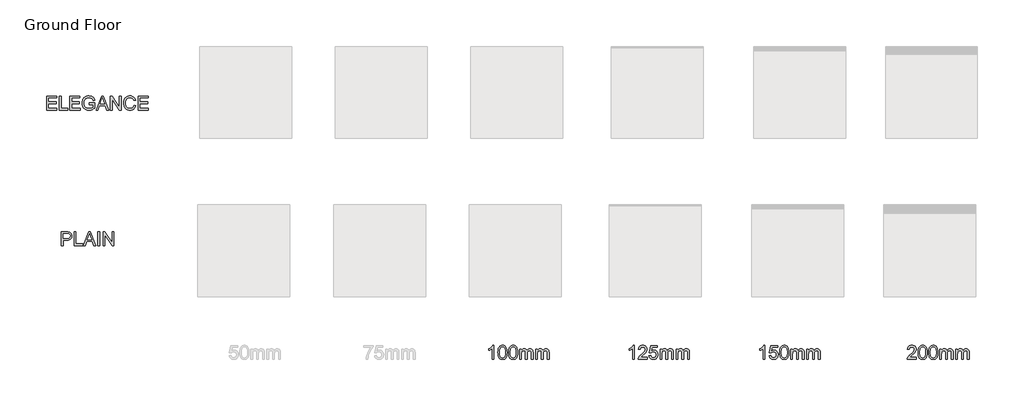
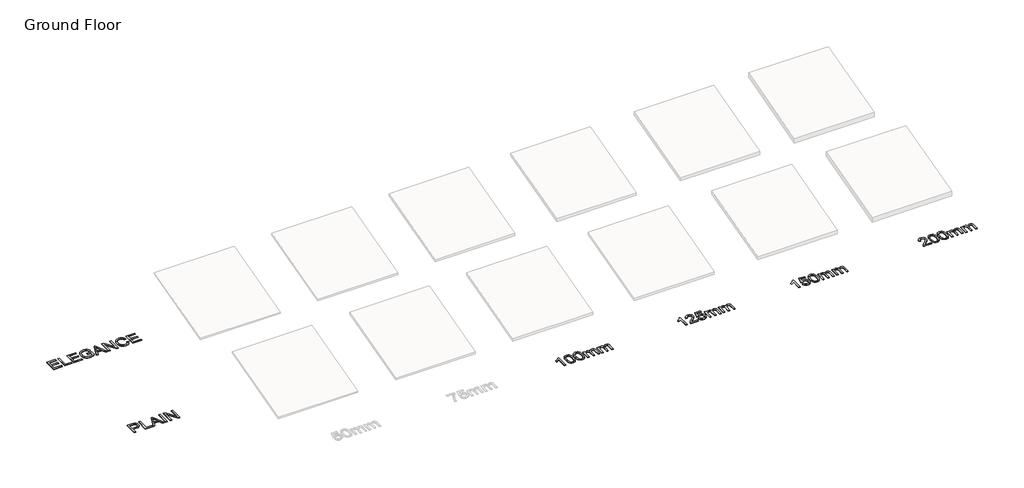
# One storey, part 2 of 2: 6 proxies.
"""IFC4 building model written with IfcOpenShell, lengths in millimetres."""

from ifc_helpers import new_model, si_unit, origin, origin_with_axes, place, context, project, spatial, polyline, outline, extrude, element, save

model = new_model("IFC4")

# Units and contexts
model_context = context("Model", 3, world=origin())
ifc_project = project(units=[si_unit("LENGTHUNIT", "METRE", prefix="MILLI")], contexts=[model_context])

# Site, building, storey
site = spatial("IfcSite", under=ifc_project)
building = spatial("IfcBuilding", under=site)
storey = spatial("IfcBuildingStorey", under=building, Name="Ground Floor", Elevation=0.0)

# Proxies
placement = place(None, origin())
element("IfcBuildingElementProxy", 1, Name="600mm Arial", ObjectType="600mm Arial", at=placement, inside=storey, context=model_context, shape_type="SweptSolid", body=[
    extrude(outline(polyline([(9514.4488498, -2485.58737), (9439.1066172, -2485.58737), (9439.1066172, -2015.8756386), (9407.6527066, -2041.3146785), (9367.7375101, -2066.7169303), (9325.8357509, -2088.9186087), (9288.422152, -2104.7559286), (9288.422152, -2033.5339743), (9347.5959709, -2001.3442998), (9398.8603269, -1963.0477841), (9439.2721641, -1922.3232472), (9465.8884265, -1882.8495091), (9514.4488498, -1882.8495091), (9514.4488498, -2485.58737)])), origin_with_axes(), (0.0, 0.0, 1.0), 20.0),
    extrude(outline(polyline([(10079.5155944, -2410.2451374), (10079.5155944, -2485.58737), (9683.9688732, -2485.58737), (9685.6243422, -2459.0630782), (9692.0622771, -2433.6424323), (9710.6403178, -2393.0466541), (9737.8267973, -2353.6648865), (9777.1533826, -2312.443709), (9832.1517409, -2266.3297009), (9913.4536618, -2194.1144652), (9962.2348144, -2140.8083641), (9976.4626505, -2119.02975), (9986.6253906, -2097.5454415), (9992.7230347, -2076.3554386), (9994.7555827, -2055.4597412), (9992.8379978, -2035.8010471), (9987.0852431, -2017.7334426), (9977.4973186, -2001.2569278), (9964.0742243, -1986.3715026), (9947.5609213, -1974.0428572), (9928.7023705, -1965.2366819), (9907.498572, -1959.9529768), (9883.9495258, -1958.1917417), (9859.1404837, -1959.9115901), (9836.9526009, -1965.071135), (9817.3858773, -1973.6703767), (9800.4403129, -1985.709315), (9786.73211, -2000.7832797), (9776.8774711, -2018.4876007), (9770.876396, -2038.822278), (9768.7288849, -2061.7873116), (9693.3866523, -2052.3695325), (9699.8659739, -2013.4752085), (9711.6519933, -1979.4921092), (9728.7447105, -1950.4202346), (9751.1441255, -1926.2595845), (9778.3352035, -1907.2676765), (9809.8029096, -1893.702028), (9845.547244, -1885.5626388), (9885.5682066, -1882.8495091), (9925.9478541, -1885.8661415), (9961.8853265, -1894.9160386), (9993.3806238, -1909.9992004), (10020.433746, -1931.1156269), (10042.1617763, -1956.7018196), (10057.681798, -1985.1942802), (10066.993811, -2016.5930085), (10070.0978153, -2050.8980045), (10066.7500892, -2086.9320459), (10056.7069107, -2122.340688), (10038.883028, -2158.3563353), (10012.1931893, -2196.2113926), (9969.6476366, -2241.4056957), (9904.2566119, -2299.4390805), (9817.5836138, -2371.9118335), (9783.5913175, -2410.2451374), (10079.5155944, -2410.2451374)])), origin_with_axes(), (0.0, 0.0, 1.0), 20.0),
    extrude(outline(polyline([(10154.857827, -2325.4851257), (10230.2000596, -2316.0673466), (10235.8286542, -2340.2877775), (10244.0324227, -2361.2984379), (10254.8113651, -2379.099328), (10268.1654815, -2393.6904476), (10284.0671808, -2405.0534027), (10302.4888717, -2413.1697993), (10323.4305543, -2418.0396372), (10346.8922285, -2419.6629165), (10375.5870241, -2417.4050407), (10400.8973054, -2410.6314135), (10422.8230723, -2399.3420348), (10441.3643249, -2383.5369045), (10456.1071958, -2363.9977721), (10466.6378179, -2341.5063866), (10472.9561912, -2316.0627481), (10475.0623156, -2287.6668566), (10473.0895484, -2260.8298651), (10467.1712468, -2236.9727177), (10457.3074108, -2216.0954144), (10443.4980404, -2198.1979554), (10425.6971504, -2183.8413605), (10403.8587555, -2173.5866499), (10377.9828556, -2167.4338235), (10348.0694509, -2165.3828814), (10311.5203747, -2168.6570312), (10281.9242682, -2178.4794804), (10258.28785, -2193.525854), (10239.6178387, -2212.4717768), (10164.2756061, -2203.0539977), (10230.2000596, -1892.2672882), (10522.151211, -1892.2672882), (10522.151211, -1967.6095208), (10291.121318, -1967.6095208), (10258.8948553, -2133.597877), (10285.4835265, -2114.5415897), (10312.7159912, -2100.9299559), (10340.5922493, -2092.7629756), (10369.112301, -2090.0406488), (10405.8039315, -2093.4159661), (10439.5065208, -2103.541918), (10470.2200689, -2120.4185045), (10497.9445757, -2144.0457257), (10520.8958137, -2172.9796446), (10537.2895551, -2205.7763245), (10547.1258, -2242.4357653), (10550.4045482, -2282.9579671), (10547.4522952, -2321.9902468), (10538.5955362, -2358.3001997), (10523.8342711, -2391.8878258), (10503.1685001, -2422.7531252), (10471.8617423, -2454.3633857), (10435.3310601, -2476.9421431), (10393.5764537, -2490.4893976), (10346.5979229, -2495.0051491), (10307.7173945, -2492.1034798), (10272.5984596, -2483.3984721), (10241.241118, -2468.890126), (10213.6453699, -2448.5784413), (10190.6849348, -2423.4750936), (10173.2335327, -2394.5917585), (10161.2911634, -2361.9284359), (10154.857827, -2325.4851257)])), origin_with_axes(), (0.0, 0.0, 1.0), 20.0),
    extrude(outline(polyline([(10635.1645599, -2485.58737), (10635.1645599, -2042.9517534), (10710.5067925, -2042.9517534), (10710.5067925, -2115.7923885), (10733.1683234, -2082.333521), (10762.3045775, -2056.1219288), (10796.9222732, -2039.180963), (10836.0281293, -2033.5339743), (10877.9298885, -2039.2913276), (10895.7629683, -2046.4880191), (10911.5175147, -2056.5633872), (10936.6070668, -2084.2097192), (10953.0146038, -2121.0898892), (10980.4769947, -2082.7841764), (11011.8021466, -2055.422953), (11046.9900594, -2039.006219), (11086.0407332, -2033.5339743), (11116.2024583, -2035.8102442), (11142.6761664, -2042.6390537), (11165.4618575, -2054.0204029), (11184.5595315, -2069.9542919), (11199.6564889, -2090.6246615), (11210.4400299, -2116.2154528), (11216.9101545, -2146.7266657), (11219.0668627, -2182.1583004), (11219.0668627, -2485.58737), (11143.7246301, -2485.58737), (11143.7246301, -2214.531916), (11141.9771906, -2176.9527702), (11136.7348722, -2151.6240948), (11126.9124229, -2134.2784587), (11111.4245909, -2120.6484308), (11091.5037808, -2111.8192629), (11068.3823974, -2108.8762069), (11047.0314462, -2110.7616022), (11027.5658901, -2116.4177879), (11009.9857292, -2125.844764), (10994.2909636, -2139.0425306), (10981.3829041, -2156.3973637), (10972.1628616, -2178.2955394), (10966.6308361, -2204.7370578), (10964.7868276, -2235.7219189), (10964.7868276, -2485.58737), (10889.444595, -2485.58737), (10889.444595, -2206.1442065), (10885.0851934, -2163.5434714), (10879.6359413, -2146.8232348), (10872.0069884, -2133.1564186), (10861.8948321, -2122.533826), (10848.9959696, -2114.9462599), (10833.3104011, -2110.3937202), (10814.8381264, -2108.8762069), (10785.812237, -2112.9229089), (10759.0672159, -2125.0630147), (10736.9942962, -2145.0022189), (10721.9847108, -2172.4462157), (10713.3762721, -2210.5220022), (10710.5067925, -2262.3565753), (10710.5067925, -2485.58737), (10635.1645599, -2485.58737)])), origin_with_axes(), (0.0, 0.0, 1.0), 20.0),
    extrude(outline(polyline([(11332.0802116, -2485.58737), (11332.0802116, -2042.9517534), (11407.4224442, -2042.9517534), (11407.4224442, -2115.7923885), (11430.0839751, -2082.333521), (11459.2202291, -2056.1219288), (11493.8379249, -2039.180963), (11532.943781, -2033.5339743), (11574.8455402, -2039.2913276), (11592.6786199, -2046.4880191), (11608.4331664, -2056.5633872), (11633.5227184, -2084.2097192), (11649.9302554, -2121.0898892), (11677.3926464, -2082.7841764), (11708.7177983, -2055.422953), (11743.9057111, -2039.006219), (11782.9563849, -2033.5339743), (11813.11811, -2035.8102442), (11839.591818, -2042.6390537), (11862.3775091, -2054.0204029), (11881.4751832, -2069.9542919), (11896.5721406, -2090.6246615), (11907.3556815, -2116.2154528), (11913.8258061, -2146.7266657), (11915.9825143, -2182.1583004), (11915.9825143, -2485.58737), (11840.6402817, -2485.58737), (11840.6402817, -2214.531916), (11838.8928422, -2176.9527702), (11833.6505238, -2151.6240948), (11823.8280745, -2134.2784587), (11808.3402425, -2120.6484308), (11788.4194325, -2111.8192629), (11765.2980491, -2108.8762069), (11743.9470978, -2110.7616022), (11724.4815417, -2116.4177879), (11706.9013809, -2125.844764), (11691.2066153, -2139.0425306), (11678.2985558, -2156.3973637), (11669.0785133, -2178.2955394), (11663.5464878, -2204.7370578), (11661.7024793, -2235.7219189), (11661.7024793, -2485.58737), (11586.3602467, -2485.58737), (11586.3602467, -2206.1442065), (11582.000845, -2163.5434714), (11576.551593, -2146.8232348), (11568.9226401, -2133.1564186), (11558.8104837, -2122.533826), (11545.9116213, -2114.9462599), (11530.2260527, -2110.3937202), (11511.753778, -2108.8762069), (11482.7278886, -2112.9229089), (11455.9828676, -2125.0630147), (11433.9099479, -2145.0022189), (11418.9003625, -2172.4462157), (11410.2919238, -2210.5220022), (11407.4224442, -2262.3565753), (11407.4224442, -2485.58737), (11332.0802116, -2485.58737)])), origin_with_axes(), (0.0, 0.0, 1.0), 20.0),
])
element("IfcBuildingElementProxy", 2, Name="600mm Arial", ObjectType="600mm Arial", at=placement, inside=storey, context=model_context, shape_type="SweptSolid", body=[
    extrude(outline(polyline([(15201.7887855, -2485.58737), (15126.4465529, -2485.58737), (15126.4465529, -2015.8756386), (15094.9926423, -2041.3146785), (15055.0774458, -2066.7169303), (15013.1756866, -2088.9186087), (14975.7620877, -2104.7559286), (14975.7620877, -2033.5339743), (15034.9359066, -2001.3442998), (15086.2002626, -1963.0477841), (15126.6120998, -1922.3232472), (15153.2283621, -1882.8495091), (15201.7887855, -1882.8495091), (15201.7887855, -2485.58737)])), origin_with_axes(), (0.0, 0.0, 1.0), 20.0),
    extrude(outline(polyline([(15380.726588, -2325.4851257), (15456.0688206, -2316.0673466), (15461.6974151, -2340.2877775), (15469.9011836, -2361.2984379), (15480.680126, -2379.099328), (15494.0342425, -2393.6904476), (15509.9359417, -2405.0534027), (15528.3576326, -2413.1697993), (15549.2993152, -2418.0396372), (15572.7609894, -2419.6629165), (15601.4557851, -2417.4050407), (15626.7660663, -2410.6314135), (15648.6918332, -2399.3420348), (15667.2330858, -2383.5369045), (15681.9759568, -2363.9977721), (15692.5065789, -2341.5063866), (15698.8249521, -2316.0627481), (15700.9310766, -2287.6668566), (15698.9583094, -2260.8298651), (15693.0400078, -2236.9727177), (15683.1761718, -2216.0954144), (15669.3668014, -2198.1979554), (15651.5659113, -2183.8413605), (15629.7275164, -2173.5866499), (15603.8516166, -2167.4338235), (15573.9382118, -2165.3828814), (15537.3891356, -2168.6570312), (15507.7930291, -2178.4794804), (15484.1566109, -2193.525854), (15465.4865996, -2212.4717768), (15390.144367, -2203.0539977), (15456.0688206, -1892.2672882), (15748.0199719, -1892.2672882), (15748.0199719, -1967.6095208), (15516.990079, -1967.6095208), (15484.7636162, -2133.597877), (15511.3522874, -2114.5415897), (15538.5847521, -2100.9299559), (15566.4610103, -2092.7629756), (15594.981062, -2090.0406488), (15631.6726924, -2093.4159661), (15665.3752817, -2103.541918), (15696.0888298, -2120.4185045), (15723.8133367, -2144.0457257), (15746.7645746, -2172.9796446), (15763.158316, -2205.7763245), (15772.9945609, -2242.4357653), (15776.2733092, -2282.9579671), (15773.3210562, -2321.9902468), (15764.4642971, -2358.3001997), (15749.7030321, -2391.8878258), (15729.037261, -2422.7531252), (15697.7305032, -2454.3633857), (15661.1998211, -2476.9421431), (15619.4452146, -2490.4893976), (15572.4666838, -2495.0051491), (15533.5861555, -2492.1034798), (15498.4672205, -2483.3984721), (15467.109879, -2468.890126), (15439.5141308, -2448.5784413), (15416.5536958, -2423.4750936), (15399.1022936, -2394.5917585), (15387.1599243, -2361.9284359), (15380.726588, -2325.4851257)])), origin_with_axes(), (0.0, 0.0, 1.0), 20.0),
    extrude(outline(polyline([(15842.1977627, -2189.0744819), (15847.7343867, -2092.5974287), (15854.6551668, -2051.6843523), (15864.3442588, -2015.6549094), (15876.7602762, -1984.2147944), (15891.8618321, -1957.0697016), (15909.6489265, -1934.2196312), (15930.1215596, -1915.6645831), (15953.348709, -1901.3079882), (15979.3993528, -1891.0532776), (16008.2734909, -1884.9004512), (16039.9711233, -1882.8495091), (16086.3978311, -1887.7055514), (16127.9684966, -1902.2736785), (16162.7333451, -1925.983673), (16188.7426022, -1958.2653181), (16208.3875007, -1998.8427022), (16224.0592737, -2047.4399138), (16234.3231814, -2109.1521184), (16237.7444839, -2189.0744819), (16232.2630422, -2284.9997121), (16225.41124, -2325.7748328), (16215.818717, -2361.7582904), (16203.4992687, -2393.212201), (16188.4666907, -2420.3986805), (16170.7209829, -2443.3177288), (16150.2621455, -2461.9693459), (16127.0074049, -2476.4225098), (16100.8739876, -2486.7461983), (16071.8618938, -2492.9404114), (16039.9711233, -2495.0051491), (15998.4740343, -2491.4182996), (15961.6858347, -2480.6577513), (15929.6065248, -2462.723504), (15902.2361043, -2437.6155578), (15875.9693299, -2392.2281167), (15857.2073481, -2335.675457), (15845.9501591, -2267.9575787), (15842.1977627, -2189.0744819)]), holes=[polyline([(15917.5399953, -2188.9273291), (15919.7472873, -2254.4241198), (15926.3691632, -2307.4405138), (15937.4056231, -2347.9765112), (15952.8566669, -2376.0321118), (15971.5450722, -2395.1205889), (15992.2936167, -2408.7552153), (16015.1023004, -2416.9359912), (16039.9711233, -2419.6629165), (16064.8399462, -2416.9267941), (16087.6486299, -2408.7184271), (16108.3971744, -2395.0378154), (16127.0855798, -2375.884959), (16142.5366236, -2347.7833731), (16153.5730834, -2307.2565728), (16160.1949593, -2254.3045582), (16162.4022513, -2188.9273291), (16160.2685357, -2125.1641823), (16153.867389, -2073.0812888), (16143.1988112, -2032.6786487), (16128.2628022, -2003.9562619), (16109.8870965, -1983.9342843), (16088.8994287, -1969.6328718), (16065.2997987, -1961.0520242), (16039.0882065, -1958.1917417), (16014.3481424, -1960.7117334), (15991.9257347, -1968.2717084), (15971.8209837, -1980.8716667), (15954.0338892, -1998.5116084), (15938.0678107, -2029.781578), (15926.6634688, -2071.9408546), (15919.8208637, -2124.9894383), (15917.5399953, -2188.9273291)])]), origin_with_axes(), (0.0, 0.0, 1.0), 20.0),
    extrude(outline(polyline([(16322.5044956, -2485.58737), (16322.5044956, -2042.9517534), (16397.8467282, -2042.9517534), (16397.8467282, -2115.7923885), (16420.5082591, -2082.333521), (16449.6445131, -2056.1219288), (16484.2622089, -2039.180963), (16523.368065, -2033.5339743), (16565.2698242, -2039.2913276), (16583.1029039, -2046.4880191), (16598.8574504, -2056.5633872), (16623.9470025, -2084.2097192), (16640.3545394, -2121.0898892), (16667.8169304, -2082.7841764), (16699.1420823, -2055.422953), (16734.3299951, -2039.006219), (16773.3806689, -2033.5339743), (16803.542394, -2035.8102442), (16830.0161021, -2042.6390537), (16852.8017931, -2054.0204029), (16871.8994672, -2069.9542919), (16886.9964246, -2090.6246615), (16897.7799656, -2116.2154528), (16904.2500902, -2146.7266657), (16906.4067984, -2182.1583004), (16906.4067984, -2485.58737), (16831.0645657, -2485.58737), (16831.0645657, -2214.531916), (16829.3171263, -2176.9527702), (16824.0748078, -2151.6240948), (16814.2523586, -2134.2784587), (16798.7645266, -2120.6484308), (16778.8437165, -2111.8192629), (16755.7223331, -2108.8762069), (16734.3713818, -2110.7616022), (16714.9058258, -2116.4177879), (16697.3256649, -2125.844764), (16681.6308993, -2139.0425306), (16668.7228398, -2156.3973637), (16659.5027973, -2178.2955394), (16653.9707718, -2204.7370578), (16652.1267633, -2235.7219189), (16652.1267633, -2485.58737), (16576.7845307, -2485.58737), (16576.7845307, -2206.1442065), (16572.425129, -2163.5434714), (16566.975877, -2146.8232348), (16559.3469241, -2133.1564186), (16549.2347678, -2122.533826), (16536.3359053, -2114.9462599), (16520.6503367, -2110.3937202), (16502.1780621, -2108.8762069), (16473.1521726, -2112.9229089), (16446.4071516, -2125.0630147), (16424.3342319, -2145.0022189), (16409.3246465, -2172.4462157), (16400.7162078, -2210.5220022), (16397.8467282, -2262.3565753), (16397.8467282, -2485.58737), (16322.5044956, -2485.58737)])), origin_with_axes(), (0.0, 0.0, 1.0), 20.0),
    extrude(outline(polyline([(17019.4201473, -2485.58737), (17019.4201473, -2042.9517534), (17094.7623799, -2042.9517534), (17094.7623799, -2115.7923885), (17117.4239108, -2082.333521), (17146.5601648, -2056.1219288), (17181.1778606, -2039.180963), (17220.2837166, -2033.5339743), (17262.1854759, -2039.2913276), (17280.0185556, -2046.4880191), (17295.7731021, -2056.5633872), (17320.8626541, -2084.2097192), (17337.2701911, -2121.0898892), (17364.732582, -2082.7841764), (17396.0577339, -2055.422953), (17431.2456468, -2039.006219), (17470.2963206, -2033.5339743), (17500.4580456, -2035.8102442), (17526.9317537, -2042.6390537), (17549.7174448, -2054.0204029), (17568.8151189, -2069.9542919), (17583.9120762, -2090.6246615), (17594.6956172, -2116.2154528), (17601.1657418, -2146.7266657), (17603.32245, -2182.1583004), (17603.32245, -2485.58737), (17527.9802174, -2485.58737), (17527.9802174, -2214.531916), (17526.2327779, -2176.9527702), (17520.9904595, -2151.6240948), (17511.1680102, -2134.2784587), (17495.6801782, -2120.6484308), (17475.7593682, -2111.8192629), (17452.6379848, -2108.8762069), (17431.2870335, -2110.7616022), (17411.8214774, -2116.4177879), (17394.2413166, -2125.844764), (17378.546551, -2139.0425306), (17365.6384915, -2156.3973637), (17356.418449, -2178.2955394), (17350.8864235, -2204.7370578), (17349.042415, -2235.7219189), (17349.042415, -2485.58737), (17273.7001823, -2485.58737), (17273.7001823, -2206.1442065), (17269.3407807, -2163.5434714), (17263.8915286, -2146.8232348), (17256.2625758, -2133.1564186), (17246.1504194, -2122.533826), (17233.251557, -2114.9462599), (17217.5659884, -2110.3937202), (17199.0937137, -2108.8762069), (17170.0678243, -2112.9229089), (17143.3228033, -2125.0630147), (17121.2498835, -2145.0022189), (17106.2402981, -2172.4462157), (17097.6318594, -2210.5220022), (17094.7623799, -2262.3565753), (17094.7623799, -2485.58737), (17019.4201473, -2485.58737)])), origin_with_axes(), (0.0, 0.0, 1.0), 20.0),
])
element("IfcBuildingElementProxy", 3, Name="600mm Arial", ObjectType="600mm Arial", at=placement, inside=storey, context=model_context, shape_type="SweptSolid", body=[
    extrude(outline(polyline([(-15403.839663, 2451.9959966), (-15403.839663, 3054.7338575), (-15180.4617155, 3054.7338575), (-15128.4432014, 3053.2991177), (-15090.4042031, 3048.9948984), (-15050.2498833, 3038.2711382), (-15017.1956861, 3020.8151376), (-14990.5794237, 2995.8359501), (-14969.7389087, 2962.5426295), (-14956.2744277, 2923.2712265), (-14951.7862673, 2880.3577918), (-14954.8166953, 2843.3580601), (-14963.9079791, 2809.3197785), (-14979.0601187, 2778.242947), (-15000.2731143, 2750.1275655), (-15029.3955727, 2726.8222411), (-15068.2761011, 2710.1755808), (-15116.9146994, 2700.1875847), (-15175.3113676, 2696.8582526), (-15328.4974304, 2696.8582526), (-15328.4974304, 2451.9959966), (-15403.839663, 2451.9959966)]), holes=[polyline([(-15328.4974304, 2772.2004852), (-15170.8967836, 2772.2004852), (-15134.6604071, 2773.9295306), (-15104.0894133, 2779.1166667), (-15079.1838023, 2787.7618936), (-15059.9435739, 2799.8652113), (-15045.586979, 2815.1047229), (-15035.3322684, 2833.1585318), (-15029.1794421, 2854.026638), (-15027.1284999, 2877.7090414), (-15031.9661482, 2911.554185), (-15046.4790929, 2940.1018278), (-15068.8647123, 2961.5861363), (-15097.3203846, 2974.241277), (-15126.3830622, 2978.1040379), (-15172.6626172, 2979.3916249), (-15328.4974304, 2979.3916249), (-15328.4974304, 2772.2004852)])]), origin_with_axes(), (0.0, 0.0, 1.0), 20.0),
    extrude(outline(polyline([(-14848.1906975, 2451.9959966), (-14848.1906975, 3054.7338575), (-14772.8484649, 3054.7338575), (-14772.8484649, 2527.3382292), (-14471.4795344, 2527.3382292), (-14471.4795344, 2451.9959966), (-14848.1906975, 2451.9959966)])), origin_with_axes(), (0.0, 0.0, 1.0), 20.0),
    extrude(outline(polyline([(-14456.9114074, 2451.9959966), (-14216.3165826, 3054.7338575), (-14152.1579626, 3054.7338575), (-13911.5631378, 2451.9959966), (-13991.1728015, 2451.9959966), (-14060.1874638, 2640.3515782), (-14308.4342342, 2640.3515782), (-14377.3017437, 2451.9959966), (-14456.9114074, 2451.9959966)]), holes=[polyline([(-14280.7695081, 2715.6938108), (-14087.705037, 2715.6938108), (-14142.0044195, 2863.8766784), (-14184.2372726, 2979.3916249), (-14221.7612361, 2876.8261247), (-14280.7695081, 2715.6938108)])]), origin_with_axes(), (0.0, 0.0, 1.0), 20.0),
    extrude(outline(polyline([(-13821.6527781, 2451.9959966), (-13821.6527781, 3054.7338575), (-13746.3105455, 3054.7338575), (-13746.3105455, 2451.9959966), (-13821.6527781, 2451.9959966)])), origin_with_axes(), (0.0, 0.0, 1.0), 20.0),
    extrude(outline(polyline([(-13595.6260803, 2451.9959966), (-13595.6260803, 3054.7338575), (-13514.986347, 3054.7338575), (-13200.0793591, 2577.2230278), (-13200.0793591, 3054.7338575), (-13124.7371265, 3054.7338575), (-13124.7371265, 2451.9959966), (-13205.3768598, 2451.9959966), (-13520.2838477, 2929.6539792), (-13520.2838477, 2451.9959966), (-13595.6260803, 2451.9959966)])), origin_with_axes(), (0.0, 0.0, 1.0), 20.0),
])
element("IfcBuildingElementProxy", 4, Name="600mm Arial", ObjectType="600mm Arial", at=placement, inside=storey, context=model_context, shape_type="SweptSolid", body=[
    extrude(outline(polyline([(-16053.6664193, 8356.7959966), (-16053.6664193, 8959.5338575), (-15620.4485818, 8959.5338575), (-15620.4485818, 8884.1916249), (-15978.3241867, 8884.1916249), (-15978.3241867, 8705.2538225), (-15639.2841399, 8705.2538225), (-15639.2841399, 8629.9115898), (-15978.3241867, 8629.9115898), (-15978.3241867, 8432.1382292), (-15611.0308027, 8432.1382292), (-15611.0308027, 8356.7959966), (-16053.6664193, 8356.7959966)])), origin_with_axes(), (0.0, 0.0, 1.0), 20.0),
    extrude(outline(polyline([(-15498.0174538, 8356.7959966), (-15498.0174538, 8959.5338575), (-15422.6752211, 8959.5338575), (-15422.6752211, 8432.1382292), (-15121.3062907, 8432.1382292), (-15121.3062907, 8356.7959966), (-15498.0174538, 8356.7959966)])), origin_with_axes(), (0.0, 0.0, 1.0), 20.0),
    extrude(outline(polyline([(-15036.546279, 8356.7959966), (-15036.546279, 8959.5338575), (-14603.3284415, 8959.5338575), (-14603.3284415, 8884.1916249), (-14961.2040464, 8884.1916249), (-14961.2040464, 8705.2538225), (-14622.1639996, 8705.2538225), (-14622.1639996, 8629.9115898), (-14961.2040464, 8629.9115898), (-14961.2040464, 8432.1382292), (-14593.9106624, 8432.1382292), (-14593.9106624, 8356.7959966), (-15036.546279, 8356.7959966)])), origin_with_axes(), (0.0, 0.0, 1.0), 20.0),
    extrude(outline(polyline([(-14198.3639412, 8592.2404735), (-14198.3639412, 8667.5827061), (-13953.5016852, 8667.5827061), (-13953.5016852, 8442.2917723), (-14013.0065979, 8400.9050478), (-14074.3877088, 8371.2169708), (-14137.4978651, 8353.3379059), (-14202.1899139, 8347.3782175), (-14245.4666322, 8349.7464579), (-14286.7108023, 8356.8511789), (-14325.9224245, 8368.6923806), (-14363.1014986, 8385.270063), (-14397.0478097, 8406.3359058), (-14426.5611428, 8431.6415885), (-14451.6414978, 8461.1871113), (-14472.2888748, 8494.972474), (-14488.4159018, 8531.9170234), (-14499.9352067, 8570.940106), (-14506.8467897, 8612.0417219), (-14509.1506507, 8655.2218711), (-14506.8559868, 8698.4066188), (-14499.9719949, 8740.1106415), (-14488.4986752, 8780.3339391), (-14472.4360276, 8819.0765118), (-14452.0691606, 8854.6369051), (-14427.6831829, 8885.313665), (-14399.2780943, 8911.1067914), (-14366.853895, 8932.0162843), (-14331.1141592, 8948.1755009), (-14292.7624612, 8959.7177985), (-14251.798801, 8966.6431771), (-14208.2231787, 8968.9516366), (-14146.1614861, 8963.5989536), (-14090.3537874, 8947.5409045), (-14065.4343808, 8935.7870747), (-14043.3568625, 8921.9363176), (-14024.1212327, 8905.9886331), (-14007.7274913, 8887.9440213), (-13981.3687463, 8843.9269405), (-13962.1837003, 8788.2480006), (-14031.639821, 8768.6766784), (-14047.1460471, 8808.3895398), (-14065.9999993, 8838.3535283), (-14090.9423986, 8860.9414828), (-14124.7139658, 8878.5262422), (-14164.9786501, 8889.8386135), (-14209.4004011, 8893.609404), (-14261.4005211, 8889.5443079), (-14305.8590602, 8877.3490198), (-14342.6104715, 8858.5502498), (-14371.4892081, 8834.6747084), (-14393.6540983, 8806.9548), (-14410.2639704, 8776.6229295), (-14427.9223062, 8719.7483731), (-14433.8084181, 8658.3120799), (-14432.037986, 8620.6915473), (-14426.7266897, 8586.2623911), (-14417.8745292, 8555.0246112), (-14405.4815045, 8526.9782076), (-14389.7085639, 8502.2289464), (-14370.7166559, 8480.8825936), (-14348.5057805, 8462.9391493), (-14323.0759376, 8448.3986134), (-14295.6181451, 8437.164417), (-14267.3234212, 8429.139991), (-14238.1917657, 8424.3253354), (-14208.2231787, 8422.7204502), (-14156.0391177, 8427.5580984), (-14105.1426436, 8442.0710431), (-14060.9416219, 8462.0654295), (-14028.8439178, 8483.347403), (-14028.8439178, 8592.2404735), (-14198.3639412, 8592.2404735)])), origin_with_axes(), (0.0, 0.0, 1.0), 20.0),
    extrude(outline(polyline([(-13901.2624419, 8356.7959966), (-13660.667617, 8959.5338575), (-13596.5089971, 8959.5338575), (-13355.9141722, 8356.7959966), (-13435.523836, 8356.7959966), (-13504.5384983, 8545.1515782), (-13752.7852686, 8545.1515782), (-13821.6527781, 8356.7959966), (-13901.2624419, 8356.7959966)]), holes=[polyline([(-13725.1205426, 8620.4938108), (-13532.0560715, 8620.4938108), (-13586.355454, 8768.6766784), (-13628.5883071, 8884.1916249), (-13666.1122706, 8781.6261247), (-13725.1205426, 8620.4938108)])]), origin_with_axes(), (0.0, 0.0, 1.0), 20.0),
    extrude(outline(polyline([(-13275.4215917, 8356.7959966), (-13275.4215917, 8959.5338575), (-13194.7818584, 8959.5338575), (-12879.8748705, 8482.0230278), (-12879.8748705, 8959.5338575), (-12804.5326379, 8959.5338575), (-12804.5326379, 8356.7959966), (-12885.1723712, 8356.7959966), (-13200.0793591, 8834.4539792), (-13200.0793591, 8356.7959966), (-13275.4215917, 8356.7959966)])), origin_with_axes(), (0.0, 0.0, 1.0), 20.0),
    extrude(outline(polyline([(-12248.8836724, 8571.0504706), (-12173.5414397, 8551.6263013), (-12188.4498576, 8504.7719307), (-12208.3062883, 8463.8312631), (-12233.1107318, 8428.8042987), (-12262.8631882, 8399.6910373), (-12296.8922727, 8376.8041786), (-12334.5266008, 8360.4564225), (-12375.7661725, 8350.6477688), (-12420.6109877, 8347.3782175), (-12466.5548504, 8349.852224), (-12508.0013557, 8357.2742432), (-12544.9505036, 8369.6442753), (-12577.4022941, 8386.9623202), (-12605.8027841, 8408.9708606), (-12630.5980306, 8435.412379), (-12651.7880335, 8466.2868754), (-12669.3727928, 8501.5943499), (-12683.1821632, 8539.8080922), (-12693.0459992, 8579.4013919), (-12698.9643008, 8620.3742491), (-12700.937068, 8662.7266638), (-12698.7067834, 8708.1692873), (-12692.0159296, 8750.6136725), (-12680.8645067, 8790.0598194), (-12665.2525145, 8826.5077281), (-12645.529441, 8859.3549917), (-12622.0447742, 8887.9992036), (-12594.7985139, 8912.4403636), (-12563.7906602, 8932.6784719), (-12530.0742754, 8948.5479814), (-12494.7024215, 8959.8833454), (-12457.6750987, 8966.6845638), (-12418.9923069, 8968.9516366), (-12375.8995297, 8966.0177777), (-12336.3844049, 8957.216201), (-12300.4469325, 8942.5469064), (-12268.0871125, 8922.009894), (-12239.8383738, 8896.1477898), (-12216.2341453, 8865.5032196), (-12197.274427, 8830.0761834), (-12182.9592188, 8789.8666813), (-12258.3014514, 8771.91404), (-12270.1656458, 8801.5423362), (-12284.4210731, 8826.857216), (-12301.0677334, 8847.8586794), (-12320.1056266, 8864.5467264), (-12341.6451174, 8877.2616478), (-12365.7965704, 8886.3437346), (-12392.5599856, 8891.7929866), (-12421.9353629, 8893.609404), (-12455.7345212, 8891.5952501), (-12486.6458058, 8885.5527883), (-12514.6692168, 8875.4820187), (-12539.8047541, 8861.3829412), (-12561.7351196, 8843.8901523), (-12580.1430149, 8823.6382485), (-12595.0284401, 8800.6272297), (-12606.3913953, 8774.8570959), (-12620.7939754, 8719.7115849), (-12625.5948354, 8662.8738166), (-12619.9110586, 8593.2705431), (-12612.8063376, 8562.0005735), (-12602.8597281, 8533.0850487), (-12589.9102819, 8507.0987843), (-12573.7970505, 8484.6165958), (-12554.520034, 8465.6384834), (-12532.0792322, 8450.164447), (-12507.5644958, 8438.1576984), (-12482.065675, 8429.5814494), (-12455.5827699, 8424.4357), (-12428.1157804, 8422.7204502), (-12395.3604873, 8425.0565008), (-12365.2263533, 8432.0646528), (-12337.7133786, 8443.7449062), (-12312.8215631, 8460.0972609), (-12291.139518, 8481.0481405), (-12273.2558545, 8506.5239687), (-12259.1705726, 8536.5247454), (-12248.8836724, 8571.0504706)])), origin_with_axes(), (0.0, 0.0, 1.0), 20.0),
    extrude(outline(polyline([(-12069.9458699, 8356.7959966), (-12069.9458699, 8959.5338575), (-11636.7280324, 8959.5338575), (-11636.7280324, 8884.1916249), (-11994.6036373, 8884.1916249), (-11994.6036373, 8705.2538225), (-11655.5635905, 8705.2538225), (-11655.5635905, 8629.9115898), (-11994.6036373, 8629.9115898), (-11994.6036373, 8432.1382292), (-11627.3102533, 8432.1382292), (-11627.3102533, 8356.7959966), (-12069.9458699, 8356.7959966)])), origin_with_axes(), (0.0, 0.0, 1.0), 20.0),
])
element("IfcBuildingElementProxy", 5, Name="600mm Arial", ObjectType="600mm Arial", at=placement, inside=storey, context=model_context, shape_type="SweptSolid", body=[
    extrude(outline(polyline([(3406.1216398, -2485.58737), (3330.7794071, -2485.58737), (3330.7794071, -2015.8756386), (3299.3254966, -2041.3146785), (3259.4103001, -2066.7169303), (3217.5085408, -2088.9186087), (3180.0949419, -2104.7559286), (3180.0949419, -2033.5339743), (3239.2687608, -2001.3442998), (3290.5331169, -1963.0477841), (3330.944954, -1922.3232472), (3357.5612164, -1882.8495091), (3406.1216398, -1882.8495091), (3406.1216398, -2485.58737)])), origin_with_axes(), (0.0, 0.0, 1.0), 20.0),
    extrude(outline(polyline([(3585.0594422, -2189.0744819), (3590.5960662, -2092.5974287), (3597.5168463, -2051.6843523), (3607.2059383, -2015.6549094), (3619.6219557, -1984.2147944), (3634.7235116, -1957.0697016), (3652.510606, -1934.2196312), (3672.9832391, -1915.6645831), (3696.2103885, -1901.3079882), (3722.2610323, -1891.0532776), (3751.1351704, -1884.9004512), (3782.8328028, -1882.8495091), (3829.2595106, -1887.7055514), (3870.8301761, -1902.2736785), (3905.5950246, -1925.983673), (3931.6042817, -1958.2653181), (3951.2491802, -1998.8427022), (3966.9209532, -2047.4399138), (3977.1848609, -2109.1521184), (3980.6061634, -2189.0744819), (3975.1247217, -2284.9997121), (3968.2729195, -2325.7748328), (3958.6803965, -2361.7582904), (3946.3609482, -2393.212201), (3931.3283702, -2420.3986805), (3913.5826624, -2443.3177288), (3893.123825, -2461.9693459), (3869.8690843, -2476.4225098), (3843.7356671, -2486.7461983), (3814.7235733, -2492.9404114), (3782.8328028, -2495.0051491), (3741.3357138, -2491.4182996), (3704.5475142, -2480.6577513), (3672.4682043, -2462.723504), (3645.0977838, -2437.6155578), (3618.8310094, -2392.2281167), (3600.0690276, -2335.675457), (3588.8118386, -2267.9575787), (3585.0594422, -2189.0744819)]), holes=[polyline([(3660.4016748, -2188.9273291), (3662.6089668, -2254.4241198), (3669.2308427, -2307.4405138), (3680.2673026, -2347.9765112), (3695.7183464, -2376.0321118), (3714.4067517, -2395.1205889), (3735.1552962, -2408.7552153), (3757.9639799, -2416.9359912), (3782.8328028, -2419.6629165), (3807.7016257, -2416.9267941), (3830.5103094, -2408.7184271), (3851.2588539, -2395.0378154), (3869.9472593, -2375.884959), (3885.3983031, -2347.7833731), (3896.4347629, -2307.2565728), (3903.0566388, -2254.3045582), (3905.2639308, -2188.9273291), (3903.1302152, -2125.1641823), (3896.7290685, -2073.0812888), (3886.0604907, -2032.6786487), (3871.1244817, -2003.9562619), (3852.748776, -1983.9342843), (3831.7611082, -1969.6328718), (3808.1614782, -1961.0520242), (3781.949886, -1958.1917417), (3757.2098218, -1960.7117334), (3734.7874142, -1968.2717084), (3714.6826632, -1980.8716667), (3696.8955687, -1998.5116084), (3680.9294901, -2029.781578), (3669.5251483, -2071.9408546), (3662.6825432, -2124.9894383), (3660.4016748, -2188.9273291)])]), origin_with_axes(), (0.0, 0.0, 1.0), 20.0),
    extrude(outline(polyline([(4046.530617, -2189.0744819), (4052.067241, -2092.5974287), (4058.988021, -2051.6843523), (4068.6771131, -2015.6549094), (4081.0931304, -1984.2147944), (4096.1946863, -1957.0697016), (4113.9817808, -1934.2196312), (4134.4544138, -1915.6645831), (4157.6815633, -1901.3079882), (4183.7322071, -1891.0532776), (4212.6063452, -1884.9004512), (4244.3039776, -1882.8495091), (4290.7306854, -1887.7055514), (4332.3013508, -1902.2736785), (4367.0661994, -1925.983673), (4393.0754564, -1958.2653181), (4412.720355, -1998.8427022), (4428.392128, -2047.4399138), (4438.6560356, -2109.1521184), (4442.0773382, -2189.0744819), (4436.5958964, -2284.9997121), (4429.7440943, -2325.7748328), (4420.1515713, -2361.7582904), (4407.8321229, -2393.212201), (4392.7995449, -2420.3986805), (4375.0538372, -2443.3177288), (4354.5949997, -2461.9693459), (4331.3402591, -2476.4225098), (4305.2068419, -2486.7461983), (4276.194748, -2492.9404114), (4244.3039776, -2495.0051491), (4202.8068885, -2491.4182996), (4166.018689, -2480.6577513), (4133.939379, -2462.723504), (4106.5689586, -2437.6155578), (4080.3021841, -2392.2281167), (4061.5402024, -2335.675457), (4050.2830133, -2267.9575787), (4046.530617, -2189.0744819)]), holes=[polyline([(4121.8728496, -2188.9273291), (4124.0801415, -2254.4241198), (4130.7020175, -2307.4405138), (4141.7384773, -2347.9765112), (4157.1895211, -2376.0321118), (4175.8779265, -2395.1205889), (4196.626471, -2408.7552153), (4219.4351547, -2416.9359912), (4244.3039776, -2419.6629165), (4269.1728004, -2416.9267941), (4291.9814841, -2408.7184271), (4312.7300287, -2395.0378154), (4331.418434, -2375.884959), (4346.8694778, -2347.7833731), (4357.9059377, -2307.2565728), (4364.5278136, -2254.3045582), (4366.7351056, -2188.9273291), (4364.60139, -2125.1641823), (4358.2002433, -2073.0812888), (4347.5316654, -2032.6786487), (4332.5956564, -2003.9562619), (4314.2199507, -1983.9342843), (4293.2322829, -1969.6328718), (4269.6326529, -1961.0520242), (4243.4210608, -1958.1917417), (4218.6809966, -1960.7117334), (4196.258589, -1968.2717084), (4176.153838, -1980.8716667), (4158.3667435, -1998.5116084), (4142.4006649, -2029.781578), (4130.996323, -2071.9408546), (4124.1537179, -2124.9894383), (4121.8728496, -2188.9273291)])]), origin_with_axes(), (0.0, 0.0, 1.0), 20.0),
    extrude(outline(polyline([(4526.8373499, -2485.58737), (4526.8373499, -2042.9517534), (4602.1795825, -2042.9517534), (4602.1795825, -2115.7923885), (4624.8411134, -2082.333521), (4653.9773674, -2056.1219288), (4688.5950631, -2039.180963), (4727.7009192, -2033.5339743), (4769.6026785, -2039.2913276), (4787.4357582, -2046.4880191), (4803.1903046, -2056.5633872), (4828.2798567, -2084.2097192), (4844.6873937, -2121.0898892), (4872.1497846, -2082.7841764), (4903.4749365, -2055.422953), (4938.6628494, -2039.006219), (4977.7135231, -2033.5339743), (5007.8752482, -2035.8102442), (5034.3489563, -2042.6390537), (5057.1346474, -2054.0204029), (5076.2323215, -2069.9542919), (5091.3292788, -2090.6246615), (5102.1128198, -2116.2154528), (5108.5829444, -2146.7266657), (5110.7396526, -2182.1583004), (5110.7396526, -2485.58737), (5035.39742, -2485.58737), (5035.39742, -2214.531916), (5033.6499805, -2176.9527702), (5028.4076621, -2151.6240948), (5018.5852128, -2134.2784587), (5003.0973808, -2120.6484308), (4983.1765708, -2111.8192629), (4960.0551874, -2108.8762069), (4938.7042361, -2110.7616022), (4919.23868, -2116.4177879), (4901.6585192, -2125.844764), (4885.9637536, -2139.0425306), (4873.055694, -2156.3973637), (4863.8356515, -2178.2955394), (4858.303626, -2204.7370578), (4856.4596175, -2235.7219189), (4856.4596175, -2485.58737), (4781.1173849, -2485.58737), (4781.1173849, -2206.1442065), (4776.7579833, -2163.5434714), (4771.3087312, -2146.8232348), (4763.6797784, -2133.1564186), (4753.567622, -2122.533826), (4740.6687596, -2114.9462599), (4724.983191, -2110.3937202), (4706.5109163, -2108.8762069), (4677.4850269, -2112.9229089), (4650.7400058, -2125.0630147), (4628.6670861, -2145.0022189), (4613.6575007, -2172.4462157), (4605.049062, -2210.5220022), (4602.1795825, -2262.3565753), (4602.1795825, -2485.58737), (4526.8373499, -2485.58737)])), origin_with_axes(), (0.0, 0.0, 1.0), 20.0),
    extrude(outline(polyline([(5223.7530015, -2485.58737), (5223.7530015, -2042.9517534), (5299.0952341, -2042.9517534), (5299.0952341, -2115.7923885), (5321.756765, -2082.333521), (5350.8930191, -2056.1219288), (5385.5107148, -2039.180963), (5424.6165709, -2033.5339743), (5466.5183301, -2039.2913276), (5484.3514099, -2046.4880191), (5500.1059563, -2056.5633872), (5525.1955084, -2084.2097192), (5541.6030454, -2121.0898892), (5569.0654363, -2082.7841764), (5600.3905882, -2055.422953), (5635.578501, -2039.006219), (5674.6291748, -2033.5339743), (5704.7908999, -2035.8102442), (5731.264608, -2042.6390537), (5754.050299, -2054.0204029), (5773.1479731, -2069.9542919), (5788.2449305, -2090.6246615), (5799.0284715, -2116.2154528), (5805.4985961, -2146.7266657), (5807.6553043, -2182.1583004), (5807.6553043, -2485.58737), (5732.3130717, -2485.58737), (5732.3130717, -2214.531916), (5730.5656322, -2176.9527702), (5725.3233137, -2151.6240948), (5715.5008645, -2134.2784587), (5700.0130325, -2120.6484308), (5680.0922224, -2111.8192629), (5656.970839, -2108.8762069), (5635.6198877, -2110.7616022), (5616.1543317, -2116.4177879), (5598.5741708, -2125.844764), (5582.8794052, -2139.0425306), (5569.9713457, -2156.3973637), (5560.7513032, -2178.2955394), (5555.2192777, -2204.7370578), (5553.3752692, -2235.7219189), (5553.3752692, -2485.58737), (5478.0330366, -2485.58737), (5478.0330366, -2206.1442065), (5473.6736349, -2163.5434714), (5468.2243829, -2146.8232348), (5460.59543, -2133.1564186), (5450.4832737, -2122.533826), (5437.5844112, -2114.9462599), (5421.8988426, -2110.3937202), (5403.426568, -2108.8762069), (5374.4006785, -2112.9229089), (5347.6556575, -2125.0630147), (5325.5827378, -2145.0022189), (5310.5731524, -2172.4462157), (5301.9647137, -2210.5220022), (5299.0952341, -2262.3565753), (5299.0952341, -2485.58737), (5223.7530015, -2485.58737)])), origin_with_axes(), (0.0, 0.0, 1.0), 20.0),
])
element("IfcBuildingElementProxy", 6, Name="600mm Arial", ObjectType="600mm Arial", at=placement, inside=storey, context=model_context, shape_type="SweptSolid", body=[
    extrude(outline(polyline([(21788.1049644, -2410.2451374), (21788.1049644, -2485.58737), (21392.5582432, -2485.58737), (21394.2137121, -2459.0630782), (21400.6516471, -2433.6424323), (21419.2296878, -2393.0466541), (21446.4161673, -2353.6648865), (21485.7427525, -2312.443709), (21540.7411108, -2266.3297009), (21622.0430318, -2194.1144652), (21670.8241843, -2140.8083641), (21685.0520205, -2119.02975), (21695.2147606, -2097.5454415), (21701.3124047, -2076.3554386), (21703.3449527, -2055.4597412), (21701.4273678, -2035.8010471), (21695.6746131, -2017.7334426), (21686.0866886, -2001.2569278), (21672.6635943, -1986.3715026), (21656.1502912, -1974.0428572), (21637.2917405, -1965.2366819), (21616.087942, -1959.9529768), (21592.5388957, -1958.1917417), (21567.7298537, -1959.9115901), (21545.5419709, -1965.071135), (21525.9752472, -1973.6703767), (21509.0296828, -1985.709315), (21495.32148, -2000.7832797), (21485.466841, -2018.4876007), (21479.465766, -2038.822278), (21477.3182549, -2061.7873116), (21401.9760222, -2052.3695325), (21408.4553439, -2013.4752085), (21420.2413633, -1979.4921092), (21437.3340805, -1950.4202346), (21459.7334955, -1926.2595845), (21486.9245735, -1907.2676765), (21518.3922796, -1893.702028), (21554.136614, -1885.5626388), (21594.1575765, -1882.8495091), (21634.537224, -1885.8661415), (21670.4746964, -1894.9160386), (21701.9699937, -1909.9992004), (21729.023116, -1931.1156269), (21750.7511463, -1956.7018196), (21766.271168, -1985.1942802), (21775.583181, -2016.5930085), (21778.6871853, -2050.8980045), (21775.3394591, -2086.9320459), (21765.2962807, -2122.340688), (21747.472398, -2158.3563353), (21720.7825593, -2196.2113926), (21678.2370065, -2241.4056957), (21612.8459819, -2299.4390805), (21526.1729838, -2371.9118335), (21492.1806875, -2410.2451374), (21788.1049644, -2410.2451374)])), origin_with_axes(), (0.0, 0.0, 1.0), 20.0),
    extrude(outline(polyline([(21863.447197, -2189.0744819), (21868.983821, -2092.5974287), (21875.9046011, -2051.6843523), (21885.5936931, -2015.6549094), (21898.0097104, -1984.2147944), (21913.1112663, -1957.0697016), (21930.8983608, -1934.2196312), (21951.3709938, -1915.6645831), (21974.5981433, -1901.3079882), (22000.6487871, -1891.0532776), (22029.5229252, -1884.9004512), (22061.2205576, -1882.8495091), (22107.6472654, -1887.7055514), (22149.2179308, -1902.2736785), (22183.9827794, -1925.983673), (22209.9920365, -1958.2653181), (22229.636935, -1998.8427022), (22245.308708, -2047.4399138), (22255.5726157, -2109.1521184), (22258.9939182, -2189.0744819), (22253.5124765, -2284.9997121), (22246.6606743, -2325.7748328), (22237.0681513, -2361.7582904), (22224.748703, -2393.212201), (22209.716125, -2420.3986805), (22191.9704172, -2443.3177288), (22171.5115798, -2461.9693459), (22148.2568391, -2476.4225098), (22122.1234219, -2486.7461983), (22093.1113281, -2492.9404114), (22061.2205576, -2495.0051491), (22019.7234685, -2491.4182996), (21982.935269, -2480.6577513), (21950.855959, -2462.723504), (21923.4855386, -2437.6155578), (21897.2187642, -2392.2281167), (21878.4567824, -2335.675457), (21867.1995933, -2267.9575787), (21863.447197, -2189.0744819)]), holes=[polyline([(21938.7894296, -2188.9273291), (21940.9967216, -2254.4241198), (21947.6185975, -2307.4405138), (21958.6550573, -2347.9765112), (21974.1061011, -2376.0321118), (21992.7945065, -2395.1205889), (22013.543051, -2408.7552153), (22036.3517347, -2416.9359912), (22061.2205576, -2419.6629165), (22086.0893805, -2416.9267941), (22108.8980642, -2408.7184271), (22129.6466087, -2395.0378154), (22148.3350141, -2375.884959), (22163.7860579, -2347.7833731), (22174.8225177, -2307.2565728), (22181.4443936, -2254.3045582), (22183.6516856, -2188.9273291), (22181.51797, -2125.1641823), (22175.1168233, -2073.0812888), (22164.4482454, -2032.6786487), (22149.5122364, -2003.9562619), (22131.1365308, -1983.9342843), (22110.148863, -1969.6328718), (22086.549233, -1961.0520242), (22060.3376408, -1958.1917417), (22035.5975766, -1960.7117334), (22013.175169, -1968.2717084), (21993.070418, -1980.8716667), (21975.2833235, -1998.5116084), (21959.3172449, -2029.781578), (21947.9129031, -2071.9408546), (21941.070298, -2124.9894383), (21938.7894296, -2188.9273291)])]), origin_with_axes(), (0.0, 0.0, 1.0), 20.0),
    extrude(outline(polyline([(22324.9183717, -2189.0744819), (22330.4549958, -2092.5974287), (22337.3757758, -2051.6843523), (22347.0648679, -2015.6549094), (22359.4808852, -1984.2147944), (22374.5824411, -1957.0697016), (22392.3695356, -1934.2196312), (22412.8421686, -1915.6645831), (22436.0693181, -1901.3079882), (22462.1199618, -1891.0532776), (22490.9940999, -1884.9004512), (22522.6917324, -1882.8495091), (22569.1184401, -1887.7055514), (22610.6891056, -1902.2736785), (22645.4539541, -1925.983673), (22671.4632112, -1958.2653181), (22691.1081097, -1998.8427022), (22706.7798827, -2047.4399138), (22717.0437904, -2109.1521184), (22720.465093, -2189.0744819), (22714.9836512, -2284.9997121), (22708.1318491, -2325.7748328), (22698.539326, -2361.7582904), (22686.2198777, -2393.212201), (22671.1872997, -2420.3986805), (22653.441592, -2443.3177288), (22632.9827545, -2461.9693459), (22609.7280139, -2476.4225098), (22583.5945967, -2486.7461983), (22554.5825028, -2492.9404114), (22522.6917324, -2495.0051491), (22481.1946433, -2491.4182996), (22444.4064438, -2480.6577513), (22412.3271338, -2462.723504), (22384.9567134, -2437.6155578), (22358.6899389, -2392.2281167), (22339.9279571, -2335.675457), (22328.6707681, -2267.9575787), (22324.9183717, -2189.0744819)]), holes=[polyline([(22400.2606044, -2188.9273291), (22402.4678963, -2254.4241198), (22409.0897722, -2307.4405138), (22420.1262321, -2347.9765112), (22435.5772759, -2376.0321118), (22454.2656812, -2395.1205889), (22475.0142258, -2408.7552153), (22497.8229095, -2416.9359912), (22522.6917324, -2419.6629165), (22547.5605552, -2416.9267941), (22570.3692389, -2408.7184271), (22591.1177835, -2395.0378154), (22609.8061888, -2375.884959), (22625.2572326, -2347.7833731), (22636.2936925, -2307.2565728), (22642.9155684, -2254.3045582), (22645.1228603, -2188.9273291), (22642.9891448, -2125.1641823), (22636.5879981, -2073.0812888), (22625.9194202, -2032.6786487), (22610.9834112, -2003.9562619), (22592.6077055, -1983.9342843), (22571.6200377, -1969.6328718), (22548.0204077, -1961.0520242), (22521.8088156, -1958.1917417), (22497.0687514, -1960.7117334), (22474.6463438, -1968.2717084), (22454.5415927, -1980.8716667), (22436.7544983, -1998.5116084), (22420.7884197, -2029.781578), (22409.3840778, -2071.9408546), (22402.5414727, -2124.9894383), (22400.2606044, -2188.9273291)])]), origin_with_axes(), (0.0, 0.0, 1.0), 20.0),
    extrude(outline(polyline([(22805.2251046, -2485.58737), (22805.2251046, -2042.9517534), (22880.5673373, -2042.9517534), (22880.5673373, -2115.7923885), (22903.2288682, -2082.333521), (22932.3651222, -2056.1219288), (22966.9828179, -2039.180963), (23006.088674, -2033.5339743), (23047.9904333, -2039.2913276), (23065.823513, -2046.4880191), (23081.5780594, -2056.5633872), (23106.6676115, -2084.2097192), (23123.0751485, -2121.0898892), (23150.5375394, -2082.7841764), (23181.8626913, -2055.422953), (23217.0506041, -2039.006219), (23256.1012779, -2033.5339743), (23286.263003, -2035.8102442), (23312.7367111, -2042.6390537), (23335.5224022, -2054.0204029), (23354.6200762, -2069.9542919), (23369.7170336, -2090.6246615), (23380.5005746, -2116.2154528), (23386.9706992, -2146.7266657), (23389.1274074, -2182.1583004), (23389.1274074, -2485.58737), (23313.7851748, -2485.58737), (23313.7851748, -2214.531916), (23312.0377353, -2176.9527702), (23306.7954169, -2151.6240948), (23296.9729676, -2134.2784587), (23281.4851356, -2120.6484308), (23261.5643256, -2111.8192629), (23238.4429422, -2108.8762069), (23217.0919909, -2110.7616022), (23197.6264348, -2116.4177879), (23180.046274, -2125.844764), (23164.3515083, -2139.0425306), (23151.4434488, -2156.3973637), (23142.2234063, -2178.2955394), (23136.6913808, -2204.7370578), (23134.8473723, -2235.7219189), (23134.8473723, -2485.58737), (23059.5051397, -2485.58737), (23059.5051397, -2206.1442065), (23055.1457381, -2163.5434714), (23049.696486, -2146.8232348), (23042.0675331, -2133.1564186), (23031.9553768, -2122.533826), (23019.0565143, -2114.9462599), (23003.3709458, -2110.3937202), (22984.8986711, -2108.8762069), (22955.8727817, -2112.9229089), (22929.1277606, -2125.0630147), (22907.0548409, -2145.0022189), (22892.0452555, -2172.4462157), (22883.4368168, -2210.5220022), (22880.5673373, -2262.3565753), (22880.5673373, -2485.58737), (22805.2251046, -2485.58737)])), origin_with_axes(), (0.0, 0.0, 1.0), 20.0),
    extrude(outline(polyline([(23502.1407563, -2485.58737), (23502.1407563, -2042.9517534), (23577.4829889, -2042.9517534), (23577.4829889, -2115.7923885), (23600.1445198, -2082.333521), (23629.2807738, -2056.1219288), (23663.8984696, -2039.180963), (23703.0043257, -2033.5339743), (23744.9060849, -2039.2913276), (23762.7391646, -2046.4880191), (23778.4937111, -2056.5633872), (23803.5832632, -2084.2097192), (23819.9908001, -2121.0898892), (23847.4531911, -2082.7841764), (23878.778343, -2055.422953), (23913.9662558, -2039.006219), (23953.0169296, -2033.5339743), (23983.1786547, -2035.8102442), (24009.6523628, -2042.6390537), (24032.4380538, -2054.0204029), (24051.5357279, -2069.9542919), (24066.6326853, -2090.6246615), (24077.4162263, -2116.2154528), (24083.8863509, -2146.7266657), (24086.0430591, -2182.1583004), (24086.0430591, -2485.58737), (24010.7008264, -2485.58737), (24010.7008264, -2214.531916), (24008.953387, -2176.9527702), (24003.7110685, -2151.6240948), (23993.8886193, -2134.2784587), (23978.4007873, -2120.6484308), (23958.4799772, -2111.8192629), (23935.3585938, -2108.8762069), (23914.0076425, -2110.7616022), (23894.5420865, -2116.4177879), (23876.9619256, -2125.844764), (23861.26716, -2139.0425306), (23848.3591005, -2156.3973637), (23839.139058, -2178.2955394), (23833.6070325, -2204.7370578), (23831.763024, -2235.7219189), (23831.763024, -2485.58737), (23756.4207914, -2485.58737), (23756.4207914, -2206.1442065), (23752.0613897, -2163.5434714), (23746.6121377, -2146.8232348), (23738.9831848, -2133.1564186), (23728.8710285, -2122.533826), (23715.972166, -2114.9462599), (23700.2865974, -2110.3937202), (23681.8143228, -2108.8762069), (23652.7884333, -2112.9229089), (23626.0434123, -2125.0630147), (23603.9704926, -2145.0022189), (23588.9609072, -2172.4462157), (23580.3524685, -2210.5220022), (23577.4829889, -2262.3565753), (23577.4829889, -2485.58737), (23502.1407563, -2485.58737)])), origin_with_axes(), (0.0, 0.0, 1.0), 20.0),
])

save(model, "model.ifc")
